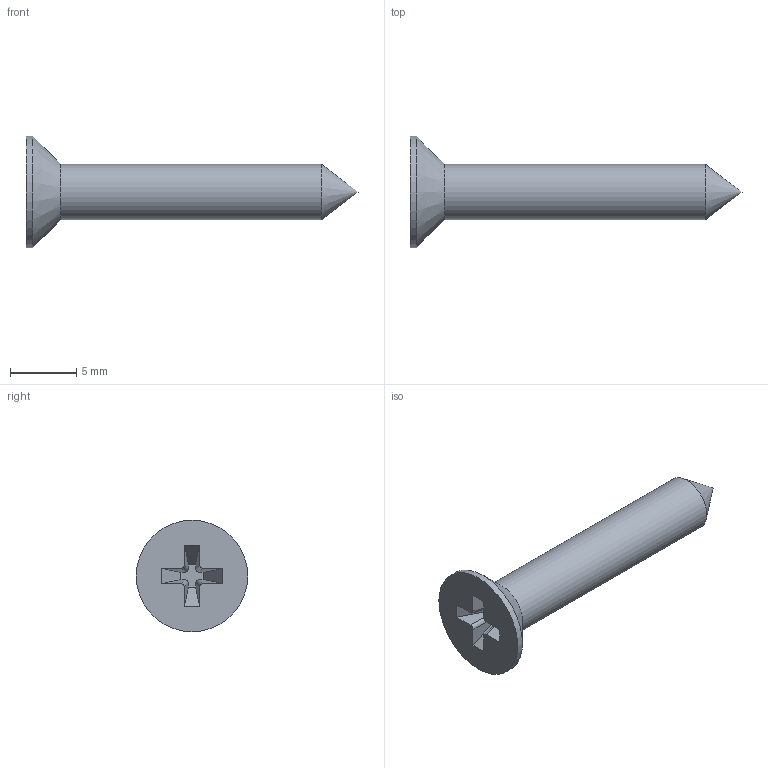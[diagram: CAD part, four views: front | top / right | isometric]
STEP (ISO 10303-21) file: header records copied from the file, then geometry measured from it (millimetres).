
FILE_DESCRIPTION (( 'STEP AP203' ), '1' );
FILE_NAME ('Vis à tôle tête conique empreinte cruciforme DIN 7050 - ST4.2 x 25 - C - H.STEP', '2026-06-24T07:29:48', ( '' ), ( '' ), 'SwSTEP 2.0', 'SolidWorks 2024', '' );
FILE_SCHEMA (( 'CONFIG_CONTROL_DESIGN' ));
Length unit declared in the file: millimetre
Products named in the file (1): Vis à tôle tête conique empreinte cruciforme DIN 7050 - ST4.2 x 25 - C - H_Tapping screw DIN 7982-ST4.2x25-C-H-C
Bounding box: 25 x 8.4 x 8.4 mm (x, y, z)
Volume: 369.9 mm3; surface area: 428.7 mm2
Topology: 1 solids, 1 shells, 22 faces, 58 edges, 38 vertices
Faces by surface type: plane 14, bspline 4, cylinder 2, cone 2
Full cylindrical faces by diameter (mm): 4.2 x1, 8.4 x1
Entity records: 755 total; most frequent: CARTESIAN_POINT 175, ORIENTED_EDGE 104, DIRECTION 94, EDGE_CURVE 52, LINE 40, VECTOR 40, VERTEX_POINT 36, AXIS2_PLACEMENT_3D 27
